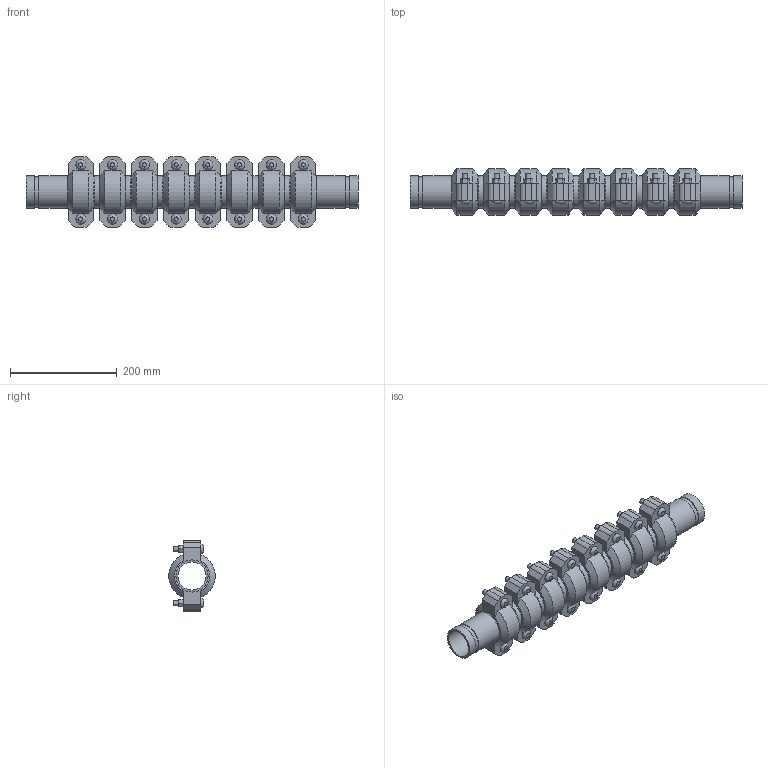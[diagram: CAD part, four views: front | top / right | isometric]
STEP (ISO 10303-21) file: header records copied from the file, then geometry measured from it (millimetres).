
FILE_DESCRIPTION(/* description */ ('VIC SS EXPANSION JOINT 8 COUPLINGS NEUTRAL STYLE 155P (OGS) (POTABLE WATER) ','CAx-IF Rec.Pracs.---Representation and Presentation of Product Manufacturing Information (PMI)---4.0---2014-10-13'),/* implementation_level */ '2;1');
FILE_NAME(/* name */ 'C:\Users\kkamble\AppData\Roaming\Autodesk\ApplicationPlugins\Victaulic.Temp\A279\Victaulic_SS_Expansion Joint_Neutral_8 Couplings_Style 155P (OGS)-Potable Water_8 Coup_Neut_2 (50).stp',/* time_stamp */ '2021-07-16T16:38:29+05:00',/* author */ ('kkamble'),/* organization */ ('Victaulic'),/* preprocessor_version */ 'ST-DEVELOPER v17.2',/* originating_system */ 'Autodesk Inventor 2019',/* authorisation */ '');
FILE_SCHEMA (('AP242_MANAGED_MODEL_BASED_3D_ENGINEERING_MIM_LF { 1 0 10303 442 1 1 4 }'));
Length unit declared in the file: inch
Products named in the file (4): 155P-02.0; Nipple-02.0; Nipple-02.0_1; 075-02.0
Assembly tree (17 placements, depth 2):
  155P-02.0
    Nipple-02.0  x2
    Nipple-02.0_1  x7
    075-02.0  x8
Bounding box: 622.3 x 87.12 x 132.59 mm (x, y, z)
Volume: 1983135 mm3; surface area: 554086.7 mm2
Topology: 17 solids, 33 shells, 564 faces, 1334 edges, 936 vertices
Faces by surface type: plane 342, cylinder 174, cone 32, bspline 16
Full cylindrical faces by diameter (mm): 9.525 x32, 11.43 x16, 52.502 x9, 53.975 x8, 57.15 x18, 60.325 x43
Entity records: 2849 total; most frequent: CARTESIAN_POINT 501, DIRECTION 477, ORIENTED_EDGE 386, EDGE_CURVE 193, AXIS2_PLACEMENT_3D 192, VERTEX_POINT 138, EDGE_LOOP 107, LINE 93
